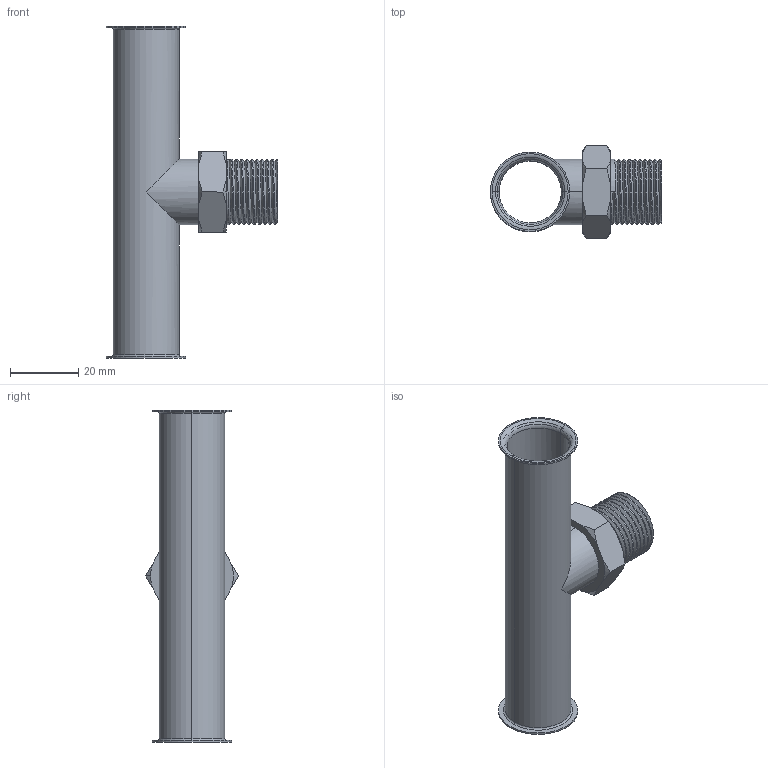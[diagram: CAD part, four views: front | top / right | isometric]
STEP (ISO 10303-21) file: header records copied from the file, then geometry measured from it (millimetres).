
FILE_DESCRIPTION (( 'STEP AP214' ), '1' );
FILE_NAME ('male_Tee_19_1／2.STEP', '2016-07-07T00:35:23', ( 'sjh' ), ( '' ), 'SwSTEP 2.0', 'SolidWorks 2014', '' );
FILE_SCHEMA (( 'AUTOMOTIVE_DESIGN' ));
Length unit declared in the file: millimetre
Products named in the file (2): male_Tee_19_1／2
Bounding box: 49.99 x 27.14 x 97 mm (x, y, z)
Volume: 6067.6 mm3; surface area: 15955 mm2
Topology: 1 solids, 1 shells, 75 faces, 196 edges, 129 vertices
Faces by surface type: cylinder 35, plane 15, cone 14, torus 8, bspline 3
Entity records: 3666 total; most frequent: CARTESIAN_POINT 1933, ORIENTED_EDGE 388, DIRECTION 322, EDGE_CURVE 194, AXIS2_PLACEMENT_3D 132, VERTEX_POINT 125, EDGE_LOOP 83, FACE_OUTER_BOUND 75
